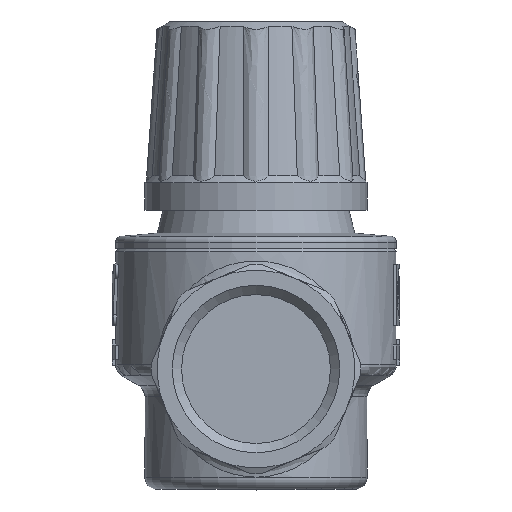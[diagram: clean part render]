
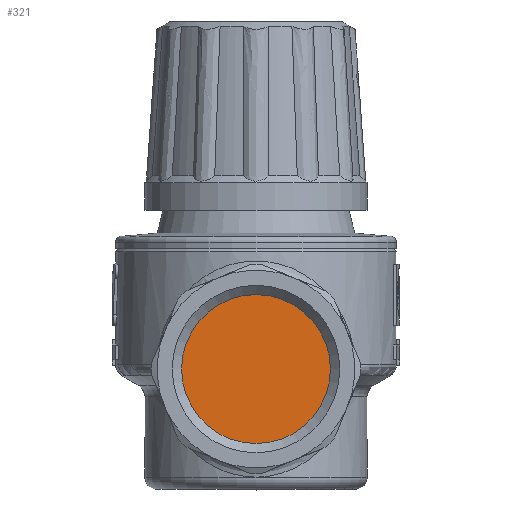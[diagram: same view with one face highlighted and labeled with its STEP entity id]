
A CAD part, front view. The second image highlights one B-rep face of the part: STEP entity #321.
In plain terms, the highlighted planar face has unit normal (0, -1, 0).
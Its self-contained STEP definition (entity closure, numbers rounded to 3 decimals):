
#321=ADVANCED_FACE('',(#3126),#3128,.T.);
#3126=FACE_BOUND('',#3127,.T.);
#3127=EDGE_LOOP('',(#5437));
#3128=PLANE('',#3129);
#3129=AXIS2_PLACEMENT_3D('',#3130,#3131,#3132);
#3130=CARTESIAN_POINT('',(0.,-23.,0.));
#3131=DIRECTION('',(0.,-1.,0.));
#3132=DIRECTION('',(1.,0.,0.));
#5437=ORIENTED_EDGE('',*,*,#6703,.T.);
#6703=EDGE_CURVE('',#8093,#8093,#8094,.T.);
#8093=VERTEX_POINT('',#15169);
#8094=CIRCLE('',#15170,12.059);
#15169=CARTESIAN_POINT('',(12.059,-23.,0.));
#15170=AXIS2_PLACEMENT_3D('',#15171,#15172,#15173);
#15171=CARTESIAN_POINT('',(0.,-23.,0.));
#15172=DIRECTION('',(0.,-1.,0.));
#15173=DIRECTION('',(1.,0.,0.));
